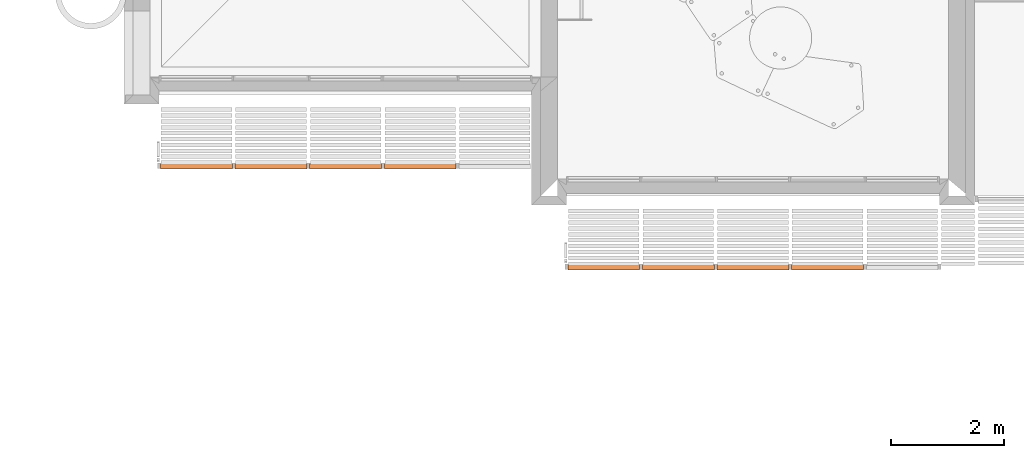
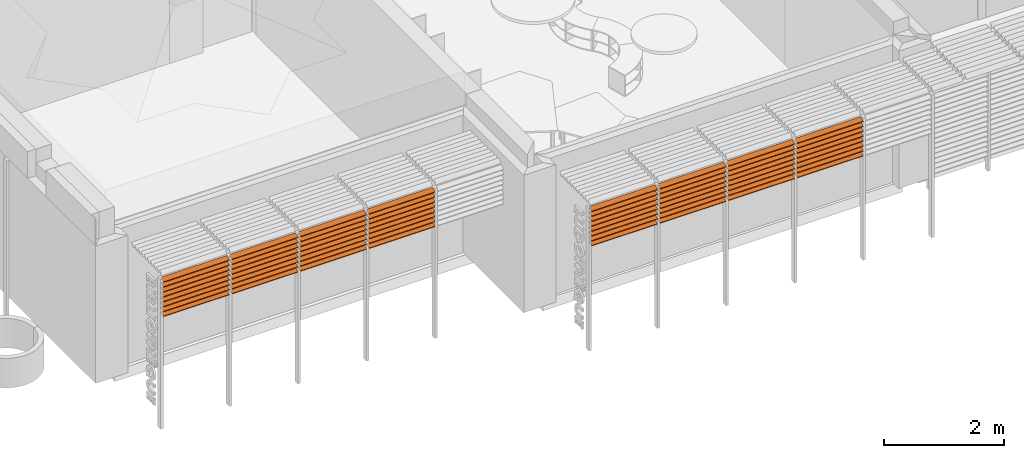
# One storey, part 55 of 64: 8 proxies.
"""IFC2X3 building model written with IfcOpenShell, lengths in metres."""

from ifc_helpers import new_model, entity, si_unit, converted_unit, derived_unit, direction, frame, frame_2d, origin, place, context, subcontext, project, spatial, rectangle, extrude, source, transform, mapped, material, type_object, type_shapes, element, save


model = new_model("IFC2X3")

# Units and contexts
model_context = context("Model", 3, precision=1e-05, world=origin(), true_north=direction((6.123031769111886e-17, 1.0)))
body_context = subcontext(model_context, "Body", "Model", "MODEL_VIEW")
ifc_project = project(units=[si_unit("LENGTHUNIT", "METRE"), si_unit("AREAUNIT", "SQUARE_METRE"), si_unit("VOLUMEUNIT", "CUBIC_METRE"), converted_unit("PLANEANGLEUNIT", "DEGREE", entity("IfcRatioMeasure", 0.017453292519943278), si_unit("PLANEANGLEUNIT", "RADIAN"), dimensions=[0, 0, 0, 0, 0, 0, 0]), si_unit("MASSUNIT", "GRAM", prefix="KILO"), derived_unit("MASSDENSITYUNIT", [(si_unit("MASSUNIT", "GRAM", prefix="KILO"), 1), (si_unit("LENGTHUNIT", "METRE"), -3)]), derived_unit("MOMENTOFINERTIAUNIT", [(si_unit("LENGTHUNIT", "METRE"), 4)]), si_unit("TIMEUNIT", "SECOND"), si_unit("FREQUENCYUNIT", "HERTZ"), si_unit("THERMODYNAMICTEMPERATUREUNIT", "DEGREE_CELSIUS"), derived_unit("THERMALTRANSMITTANCEUNIT", [(si_unit("MASSUNIT", "GRAM", prefix="KILO"), 1), (si_unit("THERMODYNAMICTEMPERATUREUNIT", "KELVIN"), -1), (si_unit("TIMEUNIT", "SECOND"), -3)]), derived_unit("THERMALCONDUCTANCEUNIT", [(si_unit("MASSUNIT", "GRAM", prefix="KILO"), 1), (si_unit("LENGTHUNIT", "METRE"), 1), (si_unit("THERMODYNAMICTEMPERATUREUNIT", "KELVIN"), -1), (si_unit("TIMEUNIT", "SECOND"), -3)]), derived_unit("VOLUMETRICFLOWRATEUNIT", [(si_unit("LENGTHUNIT", "METRE"), 3), (si_unit("TIMEUNIT", "SECOND"), -1)]), derived_unit("MASSFLOWRATEUNIT", [(si_unit("MASSUNIT", "GRAM", prefix="KILO"), 1), (si_unit("TIMEUNIT", "SECOND"), -1)]), derived_unit("ROTATIONALFREQUENCYUNIT", [(si_unit("TIMEUNIT", "SECOND"), -1)]), si_unit("ELECTRICCURRENTUNIT", "AMPERE"), si_unit("ELECTRICVOLTAGEUNIT", "VOLT"), si_unit("POWERUNIT", "WATT"), si_unit("FORCEUNIT", "NEWTON", prefix="KILO"), si_unit("ILLUMINANCEUNIT", "LUX"), si_unit("LUMINOUSFLUXUNIT", "LUMEN"), si_unit("LUMINOUSINTENSITYUNIT", "CANDELA"), derived_unit("USERDEFINED", [(si_unit("MASSUNIT", "GRAM", prefix="KILO"), -1), (si_unit("LENGTHUNIT", "METRE"), -2), (si_unit("TIMEUNIT", "SECOND"), 3), (si_unit("LUMINOUSFLUXUNIT", "LUMEN"), 1)]), derived_unit("USERDEFINED", [(si_unit("MASSUNIT", "GRAM", prefix="KILO"), 1), (si_unit("LENGTHUNIT", "METRE"), 3), (si_unit("TIMEUNIT", "SECOND"), -3), (si_unit("ELECTRICCURRENTUNIT", "AMPERE"), -2)]), derived_unit("USERDEFINED", [(si_unit("LENGTHUNIT", "METRE"), 2), (si_unit("TIMEUNIT", "SECOND"), -2)]), derived_unit("SOUNDPOWERUNIT", [(si_unit("MASSUNIT", "GRAM", prefix="KILO"), 1), (si_unit("LENGTHUNIT", "METRE"), 2), (si_unit("TIMEUNIT", "SECOND"), -3)]), derived_unit("SOUNDPRESSUREUNIT", [(si_unit("MASSUNIT", "GRAM", prefix="KILO"), 1), (si_unit("LENGTHUNIT", "METRE"), -1), (si_unit("TIMEUNIT", "SECOND"), -2)]), derived_unit("LINEARVELOCITYUNIT", [(si_unit("LENGTHUNIT", "METRE"), 1), (si_unit("TIMEUNIT", "SECOND"), -1)]), si_unit("PRESSUREUNIT", "PASCAL"), derived_unit("USERDEFINED", [(si_unit("LENGTHUNIT", "METRE"), -2), (si_unit("MASSUNIT", "GRAM", prefix="KILO"), 1), (si_unit("TIMEUNIT", "SECOND"), -2)]), derived_unit("LINEARFORCEUNIT", [(si_unit("MASSUNIT", "GRAM", prefix="KILO"), 1), (si_unit("LENGTHUNIT", "METRE"), 1), (si_unit("TIMEUNIT", "SECOND"), -2), (si_unit("LENGTHUNIT", "METRE"), -1)]), derived_unit("PLANARFORCEUNIT", [(si_unit("MASSUNIT", "GRAM", prefix="KILO"), 1), (si_unit("LENGTHUNIT", "METRE"), 1), (si_unit("TIMEUNIT", "SECOND"), -2), (si_unit("LENGTHUNIT", "METRE"), -2)]), derived_unit("SPECIFICHEATCAPACITYUNIT", [(si_unit("LENGTHUNIT", "METRE"), 2), (si_unit("TIMEUNIT", "SECOND"), -2), (si_unit("THERMODYNAMICTEMPERATUREUNIT", "KELVIN"), -1)]), derived_unit("VAPORPERMEABILITYUNIT", [(si_unit("TIMEUNIT", "SECOND"), 1), (si_unit("LENGTHUNIT", "METRE"), -1)]), derived_unit("DYNAMICVISCOSITYUNIT", [(si_unit("MASSUNIT", "GRAM", prefix="KILO"), 1), (si_unit("LENGTHUNIT", "METRE"), -1), (si_unit("TIMEUNIT", "SECOND"), -1)]), derived_unit("THERMALEXPANSIONCOEFFICIENTUNIT", [(si_unit("THERMODYNAMICTEMPERATUREUNIT", "KELVIN"), -1)])], contexts=[model_context])

# Site, building, storey
site_placement = place(None, origin())
site = spatial("IfcSite", under=ifc_project, at=site_placement, Name="Default", CompositionType="ELEMENT")
building_placement = place(site_placement, origin())
building = spatial("IfcBuilding", under=site, at=building_placement, CompositionType="ELEMENT")
storey_placement = place(building_placement, origin())
storey = spatial("IfcBuildingStorey", under=building, at=storey_placement, Name="REZ-DE-CHAUSSÉE", CompositionType="ELEMENT", Elevation=0.0)

# Proxies
ifc_material = material(Name="Bois - Chêne clair")
building_element_proxy_type_1 = type_object("IfcBuildingElementProxyType", Name="Symb-0003", PredefinedType="NOTDEFINED", material=ifc_material)
shared_shape_1 = source(origin(), body_context, "Body", "SweptSolid", [
    extrude(rectangle(XDim=0.020000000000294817, YDim=0.09999999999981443, at=frame_2d((6.002143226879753e-16, 6.852157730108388e-17), x_axis=(0.0, 1.0))), frame((114.31575228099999, 2.9072094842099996, 2.55), z_axis=(1.0, 0.0, 0.0), x_axis=(0.0, 0.9396926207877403, 0.34202014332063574)), (0.0, 0.0, 1.0), 1.2700000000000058),
    extrude(rectangle(XDim=0.02000000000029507, YDim=0.09999999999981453, at=frame_2d((5.585809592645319e-16, -5.811323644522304e-17), x_axis=(0.0, 1.0))), frame((114.31575228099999, 2.9072094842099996, 2.4499999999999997), z_axis=(1.0, 0.0, 0.0), x_axis=(0.0, 0.9396926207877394, 0.3420201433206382)), (0.0, 0.0, 1.0), 1.2700000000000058),
    extrude(rectangle(XDim=0.02000000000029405, YDim=0.09999999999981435, at=frame_2d((5.551115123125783e-16, -5.637851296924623e-17), x_axis=(0.0, 1.0))), frame((114.31575228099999, 2.9072094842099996, 2.35), z_axis=(1.0, 0.0, 0.0), x_axis=(0.0, 0.9396926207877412, 0.3420201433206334)), (0.0, 0.0, 1.0), 1.270000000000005),
    extrude(rectangle(XDim=0.02000000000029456, YDim=0.09999999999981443, at=frame_2d((4.198030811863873e-16, -4.388850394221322e-16), x_axis=(0.0, 1.0))), frame((114.31575228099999, 2.9072094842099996, 2.25), z_axis=(1.0, 0.0, 0.0), x_axis=(0.0, 0.9396926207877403, 0.34202014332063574)), (0.0, 0.0, 1.0), 1.2700000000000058),
    extrude(rectangle(XDim=0.020000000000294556, YDim=0.09999999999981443, at=frame_2d((4.614364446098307e-16, -3.1138286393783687e-16), x_axis=(0.0, 1.0))), frame((114.31575228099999, 2.9072094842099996, 2.1500000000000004), z_axis=(1.0, 0.0, 0.0), x_axis=(0.0, 0.9396926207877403, 0.34202014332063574)), (0.0, 0.0, 1.0), 1.2700000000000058),
    extrude(rectangle(XDim=0.020000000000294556, YDim=0.09999999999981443, at=frame_2d((4.614364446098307e-16, -3.1138286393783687e-16), x_axis=(0.0, 1.0))), frame((114.31575228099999, 2.9072094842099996, 2.0500000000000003), z_axis=(1.0, 0.0, 0.0), x_axis=(0.0, 0.9396926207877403, 0.34202014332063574)), (0.0, 0.0, 1.0), 1.2700000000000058),
    extrude(rectangle(XDim=0.02000000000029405, YDim=0.09999999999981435, at=frame_2d((5.551115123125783e-16, -5.637851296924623e-17), x_axis=(0.0, 1.0))), frame((114.31575228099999, 2.9072094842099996, 1.95), z_axis=(1.0, 0.0, 0.0), x_axis=(0.0, 0.9396926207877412, 0.3420201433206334)), (0.0, 0.0, 1.0), 1.270000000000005),
    extrude(rectangle(XDim=0.02000000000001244, YDim=0.09999999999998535, at=frame_2d((5.551115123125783e-16, -5.811323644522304e-17), x_axis=(0.0, 1.0))), frame((114.31575228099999, 2.9072094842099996, 1.8499999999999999), z_axis=(1.0, 0.0, 0.0), x_axis=(0.0, 0.9396926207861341, 0.3420201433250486)), (0.0, 0.0, 1.0), 1.2700000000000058),
])
type_shapes(building_element_proxy_type_1, [shared_shape_1])
proxy_1_placement = place(storey_placement, origin())
element("IfcBuildingElementProxy", 1, at=proxy_1_placement, inside=storey, type_object=building_element_proxy_type_1, material=ifc_material, Name="Symb-0003 60936:Symb-0003 60936", ObjectType="Symb-0003 60936:Symb-0003 60936", context=body_context, shape_type="MappedRepresentation", body=[
    mapped(shared_shape_1, transform((0.0, 0.0, 0.0), scale=1.0)),
])
building_element_proxy_type_2 = type_object("IfcBuildingElementProxyType", Name="Symb-0003", PredefinedType="NOTDEFINED", material=ifc_material)
shared_shape_2 = source(origin(), body_context, "Body", "SweptSolid", [
    extrude(rectangle(XDim=0.020000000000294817, YDim=0.09999999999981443, at=frame_2d((6.002143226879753e-16, 6.852157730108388e-17), x_axis=(0.0, 1.0))), frame((112.995752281, 2.9072094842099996, 2.55), z_axis=(1.0, 0.0, 0.0), x_axis=(0.0, 0.9396926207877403, 0.34202014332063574)), (0.0, 0.0, 1.0), 1.2699999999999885),
    extrude(rectangle(XDim=0.02000000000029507, YDim=0.09999999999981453, at=frame_2d((5.585809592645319e-16, -5.811323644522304e-17), x_axis=(0.0, 1.0))), frame((112.995752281, 2.9072094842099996, 2.4499999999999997), z_axis=(1.0, 0.0, 0.0), x_axis=(0.0, 0.9396926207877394, 0.3420201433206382)), (0.0, 0.0, 1.0), 1.2699999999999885),
    extrude(rectangle(XDim=0.02000000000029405, YDim=0.09999999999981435, at=frame_2d((5.551115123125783e-16, -5.637851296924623e-17), x_axis=(0.0, 1.0))), frame((112.995752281, 2.9072094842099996, 2.35), z_axis=(1.0, 0.0, 0.0), x_axis=(0.0, 0.9396926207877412, 0.3420201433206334)), (0.0, 0.0, 1.0), 1.2699999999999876),
    extrude(rectangle(XDim=0.02000000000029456, YDim=0.09999999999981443, at=frame_2d((4.198030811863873e-16, -4.388850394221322e-16), x_axis=(0.0, 1.0))), frame((112.995752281, 2.9072094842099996, 2.25), z_axis=(1.0, 0.0, 0.0), x_axis=(0.0, 0.9396926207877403, 0.34202014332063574)), (0.0, 0.0, 1.0), 1.2699999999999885),
    extrude(rectangle(XDim=0.020000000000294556, YDim=0.09999999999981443, at=frame_2d((4.614364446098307e-16, -3.1138286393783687e-16), x_axis=(0.0, 1.0))), frame((112.995752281, 2.9072094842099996, 2.1500000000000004), z_axis=(1.0, 0.0, 0.0), x_axis=(0.0, 0.9396926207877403, 0.34202014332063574)), (0.0, 0.0, 1.0), 1.2699999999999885),
    extrude(rectangle(XDim=0.020000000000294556, YDim=0.09999999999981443, at=frame_2d((4.614364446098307e-16, -3.1138286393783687e-16), x_axis=(0.0, 1.0))), frame((112.995752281, 2.9072094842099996, 2.0500000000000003), z_axis=(1.0, 0.0, 0.0), x_axis=(0.0, 0.9396926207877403, 0.34202014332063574)), (0.0, 0.0, 1.0), 1.2699999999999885),
    extrude(rectangle(XDim=0.02000000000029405, YDim=0.09999999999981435, at=frame_2d((5.551115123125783e-16, -5.637851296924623e-17), x_axis=(0.0, 1.0))), frame((112.995752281, 2.9072094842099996, 1.95), z_axis=(1.0, 0.0, 0.0), x_axis=(0.0, 0.9396926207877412, 0.3420201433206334)), (0.0, 0.0, 1.0), 1.2699999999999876),
    extrude(rectangle(XDim=0.02000000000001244, YDim=0.09999999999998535, at=frame_2d((5.551115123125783e-16, -5.811323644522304e-17), x_axis=(0.0, 1.0))), frame((112.995752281, 2.9072094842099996, 1.8499999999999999), z_axis=(1.0, 0.0, 0.0), x_axis=(0.0, 0.9396926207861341, 0.3420201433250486)), (0.0, 0.0, 1.0), 1.2699999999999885),
])
type_shapes(building_element_proxy_type_2, [shared_shape_2])
proxy_2_placement = place(storey_placement, origin())
element("IfcBuildingElementProxy", 2, at=proxy_2_placement, inside=storey, type_object=building_element_proxy_type_2, material=ifc_material, Name="Symb-0003 60965:Symb-0003 60965", ObjectType="Symb-0003 60965:Symb-0003 60965", context=body_context, shape_type="MappedRepresentation", body=[
    mapped(shared_shape_2, transform((0.0, 0.0, 0.0), scale=1.0)),
])
building_element_proxy_type_3 = type_object("IfcBuildingElementProxyType", Name="Symb-0003", PredefinedType="NOTDEFINED", material=ifc_material)
shared_shape_3 = source(origin(), body_context, "Body", "SweptSolid", [
    extrude(rectangle(XDim=0.020000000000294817, YDim=0.09999999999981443, at=frame_2d((6.002143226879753e-16, 6.852157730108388e-17), x_axis=(0.0, 1.0))), frame((111.675752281, 2.9072094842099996, 2.55), z_axis=(1.0, 0.0, 0.0), x_axis=(0.0, 0.9396926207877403, 0.34202014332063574)), (0.0, 0.0, 1.0), 1.2699999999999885),
    extrude(rectangle(XDim=0.02000000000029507, YDim=0.09999999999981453, at=frame_2d((5.585809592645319e-16, -5.811323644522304e-17), x_axis=(0.0, 1.0))), frame((111.675752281, 2.9072094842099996, 2.4499999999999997), z_axis=(1.0, 0.0, 0.0), x_axis=(0.0, 0.9396926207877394, 0.3420201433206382)), (0.0, 0.0, 1.0), 1.2699999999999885),
    extrude(rectangle(XDim=0.02000000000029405, YDim=0.09999999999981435, at=frame_2d((5.551115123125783e-16, -5.637851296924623e-17), x_axis=(0.0, 1.0))), frame((111.675752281, 2.9072094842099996, 2.35), z_axis=(1.0, 0.0, 0.0), x_axis=(0.0, 0.9396926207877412, 0.3420201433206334)), (0.0, 0.0, 1.0), 1.2699999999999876),
    extrude(rectangle(XDim=0.02000000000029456, YDim=0.09999999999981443, at=frame_2d((4.198030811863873e-16, -4.388850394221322e-16), x_axis=(0.0, 1.0))), frame((111.675752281, 2.9072094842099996, 2.25), z_axis=(1.0, 0.0, 0.0), x_axis=(0.0, 0.9396926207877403, 0.34202014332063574)), (0.0, 0.0, 1.0), 1.2699999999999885),
    extrude(rectangle(XDim=0.020000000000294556, YDim=0.09999999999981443, at=frame_2d((4.614364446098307e-16, -3.1138286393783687e-16), x_axis=(0.0, 1.0))), frame((111.675752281, 2.9072094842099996, 2.1500000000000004), z_axis=(1.0, 0.0, 0.0), x_axis=(0.0, 0.9396926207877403, 0.34202014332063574)), (0.0, 0.0, 1.0), 1.2699999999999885),
    extrude(rectangle(XDim=0.020000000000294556, YDim=0.09999999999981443, at=frame_2d((4.614364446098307e-16, -3.1138286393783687e-16), x_axis=(0.0, 1.0))), frame((111.675752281, 2.9072094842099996, 2.0500000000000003), z_axis=(1.0, 0.0, 0.0), x_axis=(0.0, 0.9396926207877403, 0.34202014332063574)), (0.0, 0.0, 1.0), 1.2699999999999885),
    extrude(rectangle(XDim=0.02000000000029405, YDim=0.09999999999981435, at=frame_2d((5.551115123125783e-16, -5.637851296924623e-17), x_axis=(0.0, 1.0))), frame((111.675752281, 2.9072094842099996, 1.95), z_axis=(1.0, 0.0, 0.0), x_axis=(0.0, 0.9396926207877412, 0.3420201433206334)), (0.0, 0.0, 1.0), 1.2699999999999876),
    extrude(rectangle(XDim=0.02000000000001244, YDim=0.09999999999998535, at=frame_2d((5.551115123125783e-16, -5.811323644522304e-17), x_axis=(0.0, 1.0))), frame((111.675752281, 2.9072094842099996, 1.8499999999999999), z_axis=(1.0, 0.0, 0.0), x_axis=(0.0, 0.9396926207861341, 0.3420201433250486)), (0.0, 0.0, 1.0), 1.2699999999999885),
])
type_shapes(building_element_proxy_type_3, [shared_shape_3])
proxy_3_placement = place(storey_placement, origin())
element("IfcBuildingElementProxy", 3, at=proxy_3_placement, inside=storey, type_object=building_element_proxy_type_3, material=ifc_material, Name="Symb-0003 60994:Symb-0003 60994", ObjectType="Symb-0003 60994:Symb-0003 60994", context=body_context, shape_type="MappedRepresentation", body=[
    mapped(shared_shape_3, transform((0.0, 0.0, 0.0), scale=1.0)),
])
building_element_proxy_type_4 = type_object("IfcBuildingElementProxyType", Name="Symb-0003", PredefinedType="NOTDEFINED", material=ifc_material)
shared_shape_4 = source(origin(), body_context, "Body", "SweptSolid", [
    extrude(rectangle(XDim=0.020000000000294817, YDim=0.09999999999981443, at=frame_2d((6.002143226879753e-16, 6.852157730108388e-17), x_axis=(0.0, 1.0))), frame((110.35575228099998, 2.9072094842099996, 2.55), z_axis=(1.0, 0.0, 0.0), x_axis=(0.0, 0.9396926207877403, 0.34202014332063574)), (0.0, 0.0, 1.0), 1.2699999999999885),
    extrude(rectangle(XDim=0.02000000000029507, YDim=0.09999999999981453, at=frame_2d((5.585809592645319e-16, -5.811323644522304e-17), x_axis=(0.0, 1.0))), frame((110.35575228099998, 2.9072094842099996, 2.4499999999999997), z_axis=(1.0, 0.0, 0.0), x_axis=(0.0, 0.9396926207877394, 0.3420201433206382)), (0.0, 0.0, 1.0), 1.2699999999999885),
    extrude(rectangle(XDim=0.02000000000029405, YDim=0.09999999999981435, at=frame_2d((5.551115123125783e-16, -5.637851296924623e-17), x_axis=(0.0, 1.0))), frame((110.35575228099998, 2.9072094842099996, 2.35), z_axis=(1.0, 0.0, 0.0), x_axis=(0.0, 0.9396926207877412, 0.3420201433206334)), (0.0, 0.0, 1.0), 1.2699999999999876),
    extrude(rectangle(XDim=0.02000000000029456, YDim=0.09999999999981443, at=frame_2d((4.198030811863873e-16, -4.388850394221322e-16), x_axis=(0.0, 1.0))), frame((110.35575228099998, 2.9072094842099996, 2.25), z_axis=(1.0, 0.0, 0.0), x_axis=(0.0, 0.9396926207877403, 0.34202014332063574)), (0.0, 0.0, 1.0), 1.2699999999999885),
    extrude(rectangle(XDim=0.020000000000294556, YDim=0.09999999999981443, at=frame_2d((4.614364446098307e-16, -3.1138286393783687e-16), x_axis=(0.0, 1.0))), frame((110.35575228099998, 2.9072094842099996, 2.1500000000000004), z_axis=(1.0, 0.0, 0.0), x_axis=(0.0, 0.9396926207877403, 0.34202014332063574)), (0.0, 0.0, 1.0), 1.2699999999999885),
    extrude(rectangle(XDim=0.020000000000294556, YDim=0.09999999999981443, at=frame_2d((4.614364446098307e-16, -3.1138286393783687e-16), x_axis=(0.0, 1.0))), frame((110.35575228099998, 2.9072094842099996, 2.0500000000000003), z_axis=(1.0, 0.0, 0.0), x_axis=(0.0, 0.9396926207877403, 0.34202014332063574)), (0.0, 0.0, 1.0), 1.2699999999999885),
    extrude(rectangle(XDim=0.02000000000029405, YDim=0.09999999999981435, at=frame_2d((5.551115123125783e-16, -5.637851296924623e-17), x_axis=(0.0, 1.0))), frame((110.35575228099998, 2.9072094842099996, 1.95), z_axis=(1.0, 0.0, 0.0), x_axis=(0.0, 0.9396926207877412, 0.3420201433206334)), (0.0, 0.0, 1.0), 1.2699999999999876),
    extrude(rectangle(XDim=0.02000000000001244, YDim=0.09999999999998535, at=frame_2d((5.551115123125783e-16, -5.811323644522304e-17), x_axis=(0.0, 1.0))), frame((110.35575228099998, 2.9072094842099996, 1.8499999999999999), z_axis=(1.0, 0.0, 0.0), x_axis=(0.0, 0.9396926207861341, 0.3420201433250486)), (0.0, 0.0, 1.0), 1.2699999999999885),
])
type_shapes(building_element_proxy_type_4, [shared_shape_4])
proxy_4_placement = place(storey_placement, origin())
element("IfcBuildingElementProxy", 4, at=proxy_4_placement, inside=storey, type_object=building_element_proxy_type_4, material=ifc_material, Name="Symb-0003 61023:Symb-0003 61023", ObjectType="Symb-0003 61023:Symb-0003 61023", context=body_context, shape_type="MappedRepresentation", body=[
    mapped(shared_shape_4, transform((0.0, 0.0, 0.0), scale=1.0)),
])
building_element_proxy_type_5 = type_object("IfcBuildingElementProxyType", Name="Symb-0003", PredefinedType="NOTDEFINED", material=ifc_material)
shared_shape_5 = source(origin(), body_context, "Body", "SweptSolid", [
    extrude(rectangle(XDim=0.02000000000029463, YDim=0.09999999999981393, at=frame_2d((3.469446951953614e-16, 1.6219664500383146e-16), x_axis=(0.0, 1.0))), frame((103.14575228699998, 4.6972094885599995, 2.55), z_axis=(1.0, 0.0, 0.0), x_axis=(0.0, 0.9396926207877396, 0.3420201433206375)), (0.0, 0.0, 1.0), 1.2700000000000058),
    extrude(rectangle(XDim=0.020000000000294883, YDim=0.09999999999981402, at=frame_2d((3.0184188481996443e-16, 3.382710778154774e-17), x_axis=(0.0, 1.0))), frame((103.14575228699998, 4.6972094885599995, 2.4499999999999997), z_axis=(1.0, 0.0, 0.0), x_axis=(0.0, 0.9396926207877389, 0.3420201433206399)), (0.0, 0.0, 1.0), 1.270000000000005),
    extrude(rectangle(XDim=0.020000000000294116, YDim=0.09999999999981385, at=frame_2d((2.5326962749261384e-16, -9.194034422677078e-17), x_axis=(0.0, 1.0))), frame((103.14575228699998, 4.6972094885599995, 2.35), z_axis=(1.0, 0.0, 0.0), x_axis=(0.0, 0.9396926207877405, 0.34202014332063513)), (0.0, 0.0, 1.0), 1.2700000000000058),
    extrude(rectangle(XDim=0.020000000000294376, YDim=0.09999999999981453, at=frame_2d((-4.5102810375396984e-17, -1.2923689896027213e-16), x_axis=(0.0, 1.0))), frame((103.14575228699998, 4.6972094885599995, 2.25), z_axis=(1.0, 0.0, 0.0), x_axis=(0.0, 0.9396926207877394, 0.3420201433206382)), (0.0, 0.0, 1.0), 1.2700000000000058),
    extrude(rectangle(XDim=0.020000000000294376, YDim=0.09999999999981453, at=frame_2d((0.0, 0.0), x_axis=(0.0, 1.0))), frame((103.14575228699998, 4.6972094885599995, 2.15), z_axis=(1.0, 0.0, 0.0), x_axis=(0.0, 0.9396926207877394, 0.3420201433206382)), (0.0, 0.0, 1.0), 1.2700000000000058),
    extrude(rectangle(XDim=0.020000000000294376, YDim=0.09999999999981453, at=frame_2d((0.0, 0.0), x_axis=(0.0, 1.0))), frame((103.14575228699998, 4.6972094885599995, 2.05), z_axis=(1.0, 0.0, 0.0), x_axis=(0.0, 0.9396926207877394, 0.3420201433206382)), (0.0, 0.0, 1.0), 1.2700000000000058),
    extrude(rectangle(XDim=0.020000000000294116, YDim=0.09999999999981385, at=frame_2d((2.5326962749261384e-16, -9.194034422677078e-17), x_axis=(0.0, 1.0))), frame((103.14575228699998, 4.6972094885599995, 1.95), z_axis=(1.0, 0.0, 0.0), x_axis=(0.0, 0.9396926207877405, 0.34202014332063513)), (0.0, 0.0, 1.0), 1.2700000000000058),
    extrude(rectangle(XDim=0.020000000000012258, YDim=0.09999999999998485, at=frame_2d((3.0184188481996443e-16, 3.382710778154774e-17), x_axis=(0.0, 1.0))), frame((103.14575228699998, 4.6972094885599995, 1.8499999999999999), z_axis=(1.0, 0.0, 0.0), x_axis=(0.0, 0.9396926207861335, 0.3420201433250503)), (0.0, 0.0, 1.0), 1.2700000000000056),
])
type_shapes(building_element_proxy_type_5, [shared_shape_5])
proxy_5_placement = place(storey_placement, origin())
element("IfcBuildingElementProxy", 5, at=proxy_5_placement, inside=storey, type_object=building_element_proxy_type_5, material=ifc_material, Name="Symb-0003 133649:Symb-0003 133649", ObjectType="Symb-0003 133649:Symb-0003 133649", context=body_context, shape_type="MappedRepresentation", body=[
    mapped(shared_shape_5, transform((0.0, 0.0, 0.0), scale=1.0)),
])
building_element_proxy_type_6 = type_object("IfcBuildingElementProxyType", Name="Symb-0003", PredefinedType="NOTDEFINED", material=ifc_material)
shared_shape_6 = source(origin(), body_context, "Body", "SweptSolid", [
    extrude(rectangle(XDim=0.02000000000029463, YDim=0.09999999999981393, at=frame_2d((3.469446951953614e-16, 1.6219664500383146e-16), x_axis=(0.0, 1.0))), frame((104.46575228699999, 4.6972094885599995, 2.55), z_axis=(1.0, 0.0, 0.0), x_axis=(0.0, 0.9396926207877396, 0.3420201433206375)), (0.0, 0.0, 1.0), 1.2700000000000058),
    extrude(rectangle(XDim=0.020000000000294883, YDim=0.09999999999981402, at=frame_2d((3.0184188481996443e-16, 3.382710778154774e-17), x_axis=(0.0, 1.0))), frame((104.46575228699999, 4.6972094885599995, 2.4499999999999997), z_axis=(1.0, 0.0, 0.0), x_axis=(0.0, 0.9396926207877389, 0.3420201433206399)), (0.0, 0.0, 1.0), 1.270000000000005),
    extrude(rectangle(XDim=0.020000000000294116, YDim=0.09999999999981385, at=frame_2d((2.5326962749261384e-16, -9.194034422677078e-17), x_axis=(0.0, 1.0))), frame((104.46575228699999, 4.6972094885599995, 2.35), z_axis=(1.0, 0.0, 0.0), x_axis=(0.0, 0.9396926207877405, 0.34202014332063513)), (0.0, 0.0, 1.0), 1.2700000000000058),
    extrude(rectangle(XDim=0.020000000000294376, YDim=0.09999999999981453, at=frame_2d((-4.5102810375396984e-17, -1.2923689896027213e-16), x_axis=(0.0, 1.0))), frame((104.46575228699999, 4.6972094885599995, 2.25), z_axis=(1.0, 0.0, 0.0), x_axis=(0.0, 0.9396926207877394, 0.3420201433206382)), (0.0, 0.0, 1.0), 1.2700000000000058),
    extrude(rectangle(XDim=0.020000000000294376, YDim=0.09999999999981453, at=frame_2d((0.0, 0.0), x_axis=(0.0, 1.0))), frame((104.46575228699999, 4.6972094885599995, 2.15), z_axis=(1.0, 0.0, 0.0), x_axis=(0.0, 0.9396926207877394, 0.3420201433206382)), (0.0, 0.0, 1.0), 1.2700000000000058),
    extrude(rectangle(XDim=0.020000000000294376, YDim=0.09999999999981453, at=frame_2d((0.0, 0.0), x_axis=(0.0, 1.0))), frame((104.46575228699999, 4.6972094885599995, 2.05), z_axis=(1.0, 0.0, 0.0), x_axis=(0.0, 0.9396926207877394, 0.3420201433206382)), (0.0, 0.0, 1.0), 1.2700000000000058),
    extrude(rectangle(XDim=0.020000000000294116, YDim=0.09999999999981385, at=frame_2d((2.5326962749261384e-16, -9.194034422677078e-17), x_axis=(0.0, 1.0))), frame((104.46575228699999, 4.6972094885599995, 1.95), z_axis=(1.0, 0.0, 0.0), x_axis=(0.0, 0.9396926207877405, 0.34202014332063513)), (0.0, 0.0, 1.0), 1.2700000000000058),
    extrude(rectangle(XDim=0.020000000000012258, YDim=0.09999999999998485, at=frame_2d((3.0184188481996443e-16, 3.382710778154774e-17), x_axis=(0.0, 1.0))), frame((104.46575228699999, 4.6972094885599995, 1.8499999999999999), z_axis=(1.0, 0.0, 0.0), x_axis=(0.0, 0.9396926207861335, 0.3420201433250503)), (0.0, 0.0, 1.0), 1.2700000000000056),
])
type_shapes(building_element_proxy_type_6, [shared_shape_6])
proxy_6_placement = place(storey_placement, origin())
element("IfcBuildingElementProxy", 6, at=proxy_6_placement, inside=storey, type_object=building_element_proxy_type_6, material=ifc_material, Name="Symb-0003 134108:Symb-0003 134108", ObjectType="Symb-0003 134108:Symb-0003 134108", context=body_context, shape_type="MappedRepresentation", body=[
    mapped(shared_shape_6, transform((0.0, 0.0, 0.0), scale=1.0)),
])
building_element_proxy_type_7 = type_object("IfcBuildingElementProxyType", Name="Symb-0003", PredefinedType="NOTDEFINED", material=ifc_material)
shared_shape_7 = source(origin(), body_context, "Body", "SweptSolid", [
    extrude(rectangle(XDim=0.02000000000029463, YDim=0.09999999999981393, at=frame_2d((3.469446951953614e-16, 1.6219664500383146e-16), x_axis=(0.0, 1.0))), frame((105.785752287, 4.6972094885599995, 2.55), z_axis=(1.0, 0.0, 0.0), x_axis=(0.0, 0.9396926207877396, 0.3420201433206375)), (0.0, 0.0, 1.0), 1.2699999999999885),
    extrude(rectangle(XDim=0.020000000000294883, YDim=0.09999999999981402, at=frame_2d((3.0184188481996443e-16, 3.382710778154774e-17), x_axis=(0.0, 1.0))), frame((105.785752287, 4.6972094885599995, 2.4499999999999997), z_axis=(1.0, 0.0, 0.0), x_axis=(0.0, 0.9396926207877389, 0.3420201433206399)), (0.0, 0.0, 1.0), 1.2699999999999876),
    extrude(rectangle(XDim=0.020000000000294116, YDim=0.09999999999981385, at=frame_2d((2.5326962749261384e-16, -9.194034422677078e-17), x_axis=(0.0, 1.0))), frame((105.785752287, 4.6972094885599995, 2.35), z_axis=(1.0, 0.0, 0.0), x_axis=(0.0, 0.9396926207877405, 0.34202014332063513)), (0.0, 0.0, 1.0), 1.2699999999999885),
    extrude(rectangle(XDim=0.020000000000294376, YDim=0.09999999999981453, at=frame_2d((-4.5102810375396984e-17, -1.2923689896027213e-16), x_axis=(0.0, 1.0))), frame((105.785752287, 4.6972094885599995, 2.25), z_axis=(1.0, 0.0, 0.0), x_axis=(0.0, 0.9396926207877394, 0.3420201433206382)), (0.0, 0.0, 1.0), 1.2699999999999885),
    extrude(rectangle(XDim=0.020000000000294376, YDim=0.09999999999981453, at=frame_2d((0.0, 0.0), x_axis=(0.0, 1.0))), frame((105.785752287, 4.6972094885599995, 2.15), z_axis=(1.0, 0.0, 0.0), x_axis=(0.0, 0.9396926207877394, 0.3420201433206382)), (0.0, 0.0, 1.0), 1.2699999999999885),
    extrude(rectangle(XDim=0.020000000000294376, YDim=0.09999999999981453, at=frame_2d((0.0, 0.0), x_axis=(0.0, 1.0))), frame((105.785752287, 4.6972094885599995, 2.05), z_axis=(1.0, 0.0, 0.0), x_axis=(0.0, 0.9396926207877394, 0.3420201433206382)), (0.0, 0.0, 1.0), 1.2699999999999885),
    extrude(rectangle(XDim=0.020000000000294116, YDim=0.09999999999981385, at=frame_2d((2.5326962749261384e-16, -9.194034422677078e-17), x_axis=(0.0, 1.0))), frame((105.785752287, 4.6972094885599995, 1.95), z_axis=(1.0, 0.0, 0.0), x_axis=(0.0, 0.9396926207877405, 0.34202014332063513)), (0.0, 0.0, 1.0), 1.2699999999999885),
    extrude(rectangle(XDim=0.020000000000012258, YDim=0.09999999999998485, at=frame_2d((3.0184188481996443e-16, 3.382710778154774e-17), x_axis=(0.0, 1.0))), frame((105.785752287, 4.6972094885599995, 1.8499999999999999), z_axis=(1.0, 0.0, 0.0), x_axis=(0.0, 0.9396926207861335, 0.3420201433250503)), (0.0, 0.0, 1.0), 1.2699999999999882),
])
type_shapes(building_element_proxy_type_7, [shared_shape_7])
proxy_7_placement = place(storey_placement, origin())
element("IfcBuildingElementProxy", 7, at=proxy_7_placement, inside=storey, type_object=building_element_proxy_type_7, material=ifc_material, Name="Symb-0003 134189:Symb-0003 134189", ObjectType="Symb-0003 134189:Symb-0003 134189", context=body_context, shape_type="MappedRepresentation", body=[
    mapped(shared_shape_7, transform((0.0, 0.0, 0.0), scale=1.0)),
])
building_element_proxy_type_8 = type_object("IfcBuildingElementProxyType", Name="Symb-0003", PredefinedType="NOTDEFINED", material=ifc_material)
shared_shape_8 = source(origin(), body_context, "Body", "SweptSolid", [
    extrude(rectangle(XDim=0.02000000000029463, YDim=0.09999999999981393, at=frame_2d((3.469446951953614e-16, 1.6219664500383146e-16), x_axis=(0.0, 1.0))), frame((107.105752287, 4.6972094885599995, 2.55), z_axis=(1.0, 0.0, 0.0), x_axis=(0.0, 0.9396926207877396, 0.3420201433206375)), (0.0, 0.0, 1.0), 1.2699999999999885),
    extrude(rectangle(XDim=0.020000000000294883, YDim=0.09999999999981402, at=frame_2d((3.0184188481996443e-16, 3.382710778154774e-17), x_axis=(0.0, 1.0))), frame((107.105752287, 4.6972094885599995, 2.4499999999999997), z_axis=(1.0, 0.0, 0.0), x_axis=(0.0, 0.9396926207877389, 0.3420201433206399)), (0.0, 0.0, 1.0), 1.2699999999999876),
    extrude(rectangle(XDim=0.020000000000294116, YDim=0.09999999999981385, at=frame_2d((2.5326962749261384e-16, -9.194034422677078e-17), x_axis=(0.0, 1.0))), frame((107.105752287, 4.6972094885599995, 2.35), z_axis=(1.0, 0.0, 0.0), x_axis=(0.0, 0.9396926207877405, 0.34202014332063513)), (0.0, 0.0, 1.0), 1.2699999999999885),
    extrude(rectangle(XDim=0.020000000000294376, YDim=0.09999999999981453, at=frame_2d((-4.5102810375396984e-17, -1.2923689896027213e-16), x_axis=(0.0, 1.0))), frame((107.105752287, 4.6972094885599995, 2.25), z_axis=(1.0, 0.0, 0.0), x_axis=(0.0, 0.9396926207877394, 0.3420201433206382)), (0.0, 0.0, 1.0), 1.2699999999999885),
    extrude(rectangle(XDim=0.020000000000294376, YDim=0.09999999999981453, at=frame_2d((0.0, 0.0), x_axis=(0.0, 1.0))), frame((107.105752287, 4.6972094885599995, 2.15), z_axis=(1.0, 0.0, 0.0), x_axis=(0.0, 0.9396926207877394, 0.3420201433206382)), (0.0, 0.0, 1.0), 1.2699999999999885),
    extrude(rectangle(XDim=0.020000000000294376, YDim=0.09999999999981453, at=frame_2d((0.0, 0.0), x_axis=(0.0, 1.0))), frame((107.105752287, 4.6972094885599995, 2.05), z_axis=(1.0, 0.0, 0.0), x_axis=(0.0, 0.9396926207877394, 0.3420201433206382)), (0.0, 0.0, 1.0), 1.2699999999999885),
    extrude(rectangle(XDim=0.020000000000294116, YDim=0.09999999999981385, at=frame_2d((2.5326962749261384e-16, -9.194034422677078e-17), x_axis=(0.0, 1.0))), frame((107.105752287, 4.6972094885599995, 1.95), z_axis=(1.0, 0.0, 0.0), x_axis=(0.0, 0.9396926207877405, 0.34202014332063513)), (0.0, 0.0, 1.0), 1.2699999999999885),
    extrude(rectangle(XDim=0.020000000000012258, YDim=0.09999999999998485, at=frame_2d((3.0184188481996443e-16, 3.382710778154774e-17), x_axis=(0.0, 1.0))), frame((107.105752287, 4.6972094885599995, 1.8499999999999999), z_axis=(1.0, 0.0, 0.0), x_axis=(0.0, 0.9396926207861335, 0.3420201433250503)), (0.0, 0.0, 1.0), 1.2699999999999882),
])
type_shapes(building_element_proxy_type_8, [shared_shape_8])
proxy_8_placement = place(storey_placement, origin())
element("IfcBuildingElementProxy", 8, at=proxy_8_placement, inside=storey, type_object=building_element_proxy_type_8, material=ifc_material, Name="Symb-0003 134270:Symb-0003 134270", ObjectType="Symb-0003 134270:Symb-0003 134270", context=body_context, shape_type="MappedRepresentation", body=[
    mapped(shared_shape_8, transform((0.0, 0.0, 0.0), scale=1.0)),
])

save(model, "model.ifc")
